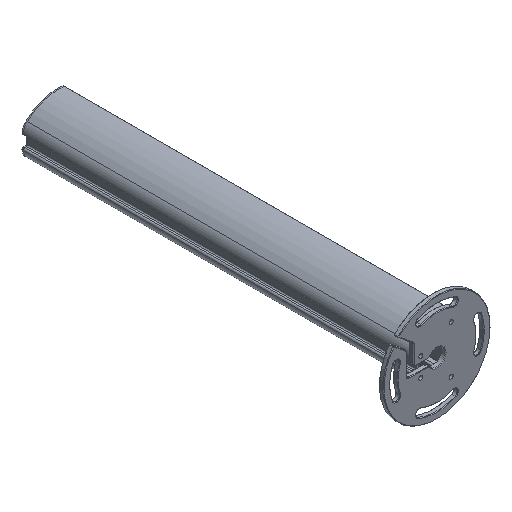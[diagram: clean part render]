
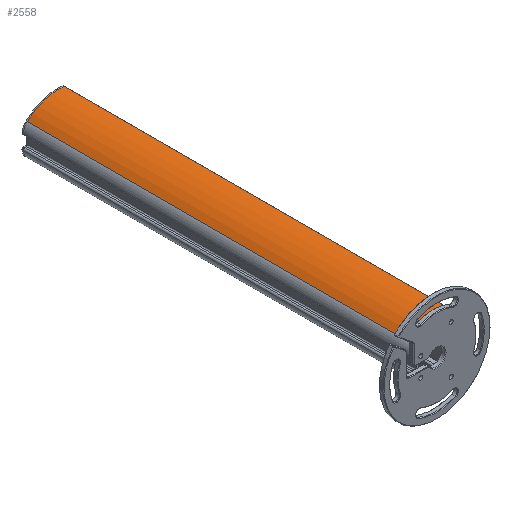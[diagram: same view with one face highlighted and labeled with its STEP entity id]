
A CAD part, isometric view. The second image highlights one B-rep face of the part: STEP entity #2558.
In plain terms, the highlighted cylindrical face has radius 79.059 mm (diameter 158.118 mm), a partial arc.
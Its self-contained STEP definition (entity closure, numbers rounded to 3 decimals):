
#72=CARTESIAN_POINT('',(24.886,-345.,-29.268));
#73=DIRECTION('',(0.,1.,0.));
#74=DIRECTION('',(-0.694,0.,0.72));
#75=AXIS2_PLACEMENT_3D('',#72,#73,#74);
#646=DIRECTION('',(0.,1.,0.));
#647=VECTOR('',#646,690.);
#648=CARTESIAN_POINT('',(35.448,-345.,49.083));
#649=LINE('',#648,#647);
#650=DIRECTION('',(0.,1.,0.));
#651=VECTOR('',#650,690.);
#652=CARTESIAN_POINT('',(-30.018,-345.,27.617));
#653=LINE('',#652,#651);
#1015=CARTESIAN_POINT('',(24.886,345.,-29.268));
#1016=DIRECTION('',(0.,1.,0.));
#1017=DIRECTION('',(-0.694,0.,0.72));
#1018=AXIS2_PLACEMENT_3D('',#1015,#1016,#1017);
#1116=CARTESIAN_POINT('',(-30.018,-345.,27.617));
#1117=VERTEX_POINT('',#1116);
#1118=CARTESIAN_POINT('',(35.448,-345.,49.083));
#1119=VERTEX_POINT('',#1118);
#1282=CARTESIAN_POINT('',(-30.018,345.,27.617));
#1283=VERTEX_POINT('',#1282);
#1284=CARTESIAN_POINT('',(35.448,345.,49.083));
#1285=VERTEX_POINT('',#1284);
#2545=CARTESIAN_POINT('',(24.886,-345.,-29.268));
#2546=DIRECTION('',(0.,1.,0.));
#2547=DIRECTION('',(1.,0.,0.));
#2548=AXIS2_PLACEMENT_3D('',#2545,#2546,#2547);
#2549=CYLINDRICAL_SURFACE('',#2548,79.059);
#2550=ORIENTED_EDGE('',*,*,#1453,.F.);
#2552=ORIENTED_EDGE('',*,*,#2551,.T.);
#2554=ORIENTED_EDGE('',*,*,#2553,.T.);
#2555=ORIENTED_EDGE('',*,*,#2537,.F.);
#2556=EDGE_LOOP('',(#2550,#2552,#2554,#2555));
#2557=FACE_OUTER_BOUND('',#2556,.F.);
#2558=ADVANCED_FACE('',(#2557),#2549,.T.);
#76=CIRCLE('',#75,79.059);
#1019=CIRCLE('',#1018,79.059);
#1453=EDGE_CURVE('',#1117,#1119,#76,.T.);
#2537=EDGE_CURVE('',#1119,#1285,#649,.T.);
#2551=EDGE_CURVE('',#1117,#1283,#653,.T.);
#2553=EDGE_CURVE('',#1283,#1285,#1019,.T.);
